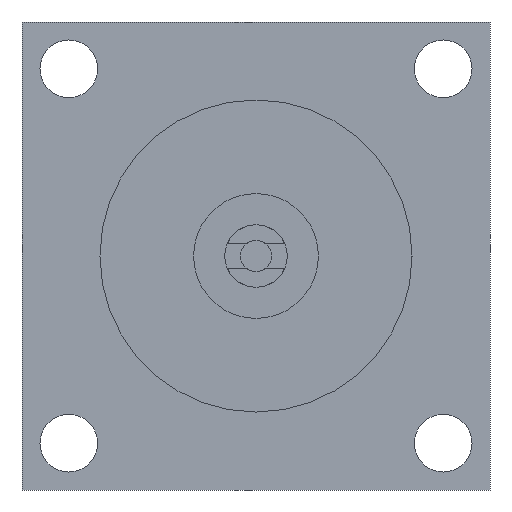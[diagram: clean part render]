
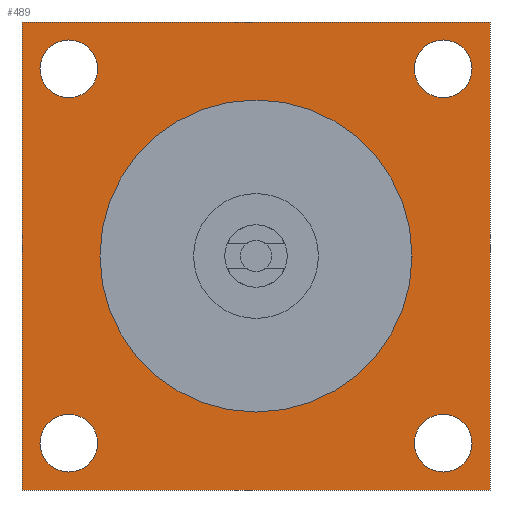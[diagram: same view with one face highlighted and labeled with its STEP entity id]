
A CAD part, left-side view. The second image highlights one B-rep face of the part: STEP entity #489.
In plain terms, the highlighted planar face has unit normal (-1, 0, 0).
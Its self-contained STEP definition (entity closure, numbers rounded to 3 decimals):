
#7 = EDGE_CURVE ( 'NONE', #256, #710, #517, .T. ) ;
#8 = CARTESIAN_POINT ( 'NONE',  ( -20., 0., 50. ) ) ;
#22 = AXIS2_PLACEMENT_3D ( 'NONE', #1468, #1487, #1497 ) ;
#39 = EDGE_CURVE ( 'NONE', #1428, #256, #473, .T. ) ;
#53 = CARTESIAN_POINT ( 'NONE',  ( -20., 60., 50.75 ) ) ;
#55 = CIRCLE ( 'NONE', #1451, 9.25 ) ;
#65 = EDGE_CURVE ( 'NONE', #1117, #1428, #797, .T. ) ;
#87 = AXIS2_PLACEMENT_3D ( 'NONE', #952, #1526, #1667 ) ;
#92 = VECTOR ( 'NONE', #1004, 1000. ) ;
#106 = CARTESIAN_POINT ( 'NONE',  ( -20., 60., -69.25 ) ) ;
#121 = PLANE ( 'NONE',  #395 ) ;
#125 = EDGE_LOOP ( 'NONE', ( #831, #1608 ) ) ;
#134 = AXIS2_PLACEMENT_3D ( 'NONE', #486, #455, #1313 ) ;
#138 = VECTOR ( 'NONE', #1179, 1000. ) ;
#144 = VERTEX_POINT ( 'NONE', #1701 ) ;
#171 = EDGE_CURVE ( 'NONE', #459, #144, #1817, .T. ) ;
#174 = CARTESIAN_POINT ( 'NONE',  ( -20., 60., -50.75 ) ) ;
#189 = CARTESIAN_POINT ( 'NONE',  ( -20., -60., 60. ) ) ;
#191 = ORIENTED_EDGE ( 'NONE', *, *, #7, .T. ) ;
#194 = DIRECTION ( 'NONE',  ( -1., 0., 0. ) ) ;
#200 = DIRECTION ( 'NONE',  ( 0., 0., 1. ) ) ;
#225 = FACE_BOUND ( 'NONE', #1516, .T. ) ;
#237 = ORIENTED_EDGE ( 'NONE', *, *, #65, .T. ) ;
#256 = VERTEX_POINT ( 'NONE', #408 ) ;
#265 = EDGE_CURVE ( 'NONE', #552, #1010, #923, .T. ) ;
#271 = CIRCLE ( 'NONE', #1235, 9.25 ) ;
#287 = CARTESIAN_POINT ( 'NONE',  ( -20., -60., 69.25 ) ) ;
#335 = VERTEX_POINT ( 'NONE', #106 ) ;
#358 = VERTEX_POINT ( 'NONE', #287 ) ;
#392 = VERTEX_POINT ( 'NONE', #1210 ) ;
#395 = AXIS2_PLACEMENT_3D ( 'NONE', #524, #1547, #1572 ) ;
#408 = CARTESIAN_POINT ( 'NONE',  ( -20., -75., 75. ) ) ;
#420 = CARTESIAN_POINT ( 'NONE',  ( -20., 0., -50. ) ) ;
#422 = DIRECTION ( 'NONE',  ( 0., 0., 1. ) ) ;
#424 = CARTESIAN_POINT ( 'NONE',  ( -20., 60., 60. ) ) ;
#429 = DIRECTION ( 'NONE',  ( -1., 0., 0. ) ) ;
#440 = DIRECTION ( 'NONE',  ( -1., 0., 0. ) ) ;
#442 = EDGE_CURVE ( 'NONE', #872, #392, #700, .T. ) ;
#455 = DIRECTION ( 'NONE',  ( -1., 0., 0. ) ) ;
#459 = VERTEX_POINT ( 'NONE', #53 ) ;
#462 = DIRECTION ( 'NONE',  ( 0., 0., 1. ) ) ;
#473 = LINE ( 'NONE', #993, #92 ) ;
#486 = CARTESIAN_POINT ( 'NONE',  ( -20., -60., 60. ) ) ;
#489 = ADVANCED_FACE ( 'NONE', ( #225, #985, #1716, #1321, #944, #566 ), #121, .F. ) ;
#517 = LINE ( 'NONE', #1279, #138 ) ;
#524 = CARTESIAN_POINT ( 'NONE',  ( -20., 0., 0. ) ) ;
#545 = CARTESIAN_POINT ( 'NONE',  ( -20., -60., -69.25 ) ) ;
#552 = VERTEX_POINT ( 'NONE', #420 ) ;
#565 = VERTEX_POINT ( 'NONE', #174 ) ;
#566 = FACE_OUTER_BOUND ( 'NONE', #1213, .T. ) ;
#569 = CARTESIAN_POINT ( 'NONE',  ( -20., 75., -75. ) ) ;
#612 = EDGE_CURVE ( 'NONE', #144, #459, #55, .T. ) ;
#614 = ORIENTED_EDGE ( 'NONE', *, *, #39, .T. ) ;
#700 = CIRCLE ( 'NONE', #22, 9.25 ) ;
#710 = VERTEX_POINT ( 'NONE', #894 ) ;
#711 = AXIS2_PLACEMENT_3D ( 'NONE', #1455, #1016, #1475 ) ;
#781 = ORIENTED_EDGE ( 'NONE', *, *, #851, .F. ) ;
#797 = LINE ( 'NONE', #1434, #1573 ) ;
#821 = ORIENTED_EDGE ( 'NONE', *, *, #1281, .F. ) ;
#831 = ORIENTED_EDGE ( 'NONE', *, *, #1382, .F. ) ;
#851 = EDGE_CURVE ( 'NONE', #1308, #358, #1593, .T. ) ;
#872 = VERTEX_POINT ( 'NONE', #545 ) ;
#877 = ORIENTED_EDGE ( 'NONE', *, *, #612, .F. ) ;
#894 = CARTESIAN_POINT ( 'NONE',  ( -20., 75., 75. ) ) ;
#923 = CIRCLE ( 'NONE', #87, 50. ) ;
#931 = AXIS2_PLACEMENT_3D ( 'NONE', #1675, #1684, #1689 ) ;
#939 = EDGE_CURVE ( 'NONE', #335, #565, #1452, .T. ) ;
#944 = FACE_BOUND ( 'NONE', #125, .T. ) ;
#945 = ORIENTED_EDGE ( 'NONE', *, *, #1806, .F. ) ;
#952 = CARTESIAN_POINT ( 'NONE',  ( -20., 0., 0. ) ) ;
#978 = CIRCLE ( 'NONE', #1384, 9.25 ) ;
#980 = AXIS2_PLACEMENT_3D ( 'NONE', #1683, #440, #422 ) ;
#985 = FACE_BOUND ( 'NONE', #1017, .T. ) ;
#993 = CARTESIAN_POINT ( 'NONE',  ( -20., -75., 75. ) ) ;
#1004 = DIRECTION ( 'NONE',  ( 0., 0., 1. ) ) ;
#1010 = VERTEX_POINT ( 'NONE', #8 ) ;
#1016 = DIRECTION ( 'NONE',  ( -1., 0., 0. ) ) ;
#1017 = EDGE_LOOP ( 'NONE', ( #1368, #781 ) ) ;
#1035 = EDGE_CURVE ( 'NONE', #358, #1308, #978, .T. ) ;
#1113 = CARTESIAN_POINT ( 'NONE',  ( -20., -60., 50.75 ) ) ;
#1117 = VERTEX_POINT ( 'NONE', #569 ) ;
#1121 = CARTESIAN_POINT ( 'NONE',  ( -20., 0., 0. ) ) ;
#1128 = DIRECTION ( 'NONE',  ( -1., 0., 0. ) ) ;
#1133 = DIRECTION ( 'NONE',  ( 0., 0., -1. ) ) ;
#1169 = DIRECTION ( 'NONE',  ( 0., 0., -1. ) ) ;
#1179 = DIRECTION ( 'NONE',  ( 0., 1., 0. ) ) ;
#1210 = CARTESIAN_POINT ( 'NONE',  ( -20., -60., -50.75 ) ) ;
#1213 = EDGE_LOOP ( 'NONE', ( #237, #614, #191, #1327 ) ) ;
#1235 = AXIS2_PLACEMENT_3D ( 'NONE', #1591, #1595, #1605 ) ;
#1259 = ORIENTED_EDGE ( 'NONE', *, *, #171, .F. ) ;
#1279 = CARTESIAN_POINT ( 'NONE',  ( -20., 75., 75. ) ) ;
#1281 = EDGE_CURVE ( 'NONE', #1010, #552, #1349, .T. ) ;
#1308 = VERTEX_POINT ( 'NONE', #1113 ) ;
#1313 = DIRECTION ( 'NONE',  ( 0., 0., 1. ) ) ;
#1321 = FACE_BOUND ( 'NONE', #1398, .T. ) ;
#1324 = VECTOR ( 'NONE', #1169, 1000. ) ;
#1327 = ORIENTED_EDGE ( 'NONE', *, *, #1453, .T. ) ;
#1335 = DIRECTION ( 'NONE',  ( 0., -1., 0. ) ) ;
#1347 = AXIS2_PLACEMENT_3D ( 'NONE', #1121, #1128, #1133 ) ;
#1349 = CIRCLE ( 'NONE', #1347, 50. ) ;
#1368 = ORIENTED_EDGE ( 'NONE', *, *, #1035, .F. ) ;
#1382 = EDGE_CURVE ( 'NONE', #565, #335, #1802, .T. ) ;
#1384 = AXIS2_PLACEMENT_3D ( 'NONE', #189, #194, #200 ) ;
#1398 = EDGE_LOOP ( 'NONE', ( #877, #1259 ) ) ;
#1428 = VERTEX_POINT ( 'NONE', #1702 ) ;
#1434 = CARTESIAN_POINT ( 'NONE',  ( -20., 75., -75. ) ) ;
#1447 = EDGE_LOOP ( 'NONE', ( #945, #1718 ) ) ;
#1451 = AXIS2_PLACEMENT_3D ( 'NONE', #424, #429, #462 ) ;
#1452 = CIRCLE ( 'NONE', #711, 9.25 ) ;
#1453 = EDGE_CURVE ( 'NONE', #710, #1117, #1720, .T. ) ;
#1455 = CARTESIAN_POINT ( 'NONE',  ( -20., 60., -60. ) ) ;
#1468 = CARTESIAN_POINT ( 'NONE',  ( -20., -60., -60. ) ) ;
#1475 = DIRECTION ( 'NONE',  ( 0., 0., 1. ) ) ;
#1487 = DIRECTION ( 'NONE',  ( -1., 0., 0. ) ) ;
#1497 = DIRECTION ( 'NONE',  ( 0., 0., 1. ) ) ;
#1516 = EDGE_LOOP ( 'NONE', ( #1555, #821 ) ) ;
#1526 = DIRECTION ( 'NONE',  ( -1., 0., 0. ) ) ;
#1547 = DIRECTION ( 'NONE',  ( 1., 0., 0. ) ) ;
#1555 = ORIENTED_EDGE ( 'NONE', *, *, #265, .F. ) ;
#1572 = DIRECTION ( 'NONE',  ( 0., 0., -1. ) ) ;
#1573 = VECTOR ( 'NONE', #1335, 1000. ) ;
#1591 = CARTESIAN_POINT ( 'NONE',  ( -20., -60., -60. ) ) ;
#1593 = CIRCLE ( 'NONE', #134, 9.25 ) ;
#1595 = DIRECTION ( 'NONE',  ( -1., 0., 0. ) ) ;
#1605 = DIRECTION ( 'NONE',  ( 0., 0., 1. ) ) ;
#1608 = ORIENTED_EDGE ( 'NONE', *, *, #939, .F. ) ;
#1667 = DIRECTION ( 'NONE',  ( 0., 0., -1. ) ) ;
#1675 = CARTESIAN_POINT ( 'NONE',  ( -20., 60., -60. ) ) ;
#1683 = CARTESIAN_POINT ( 'NONE',  ( -20., 60., 60. ) ) ;
#1684 = DIRECTION ( 'NONE',  ( -1., 0., 0. ) ) ;
#1689 = DIRECTION ( 'NONE',  ( 0., 0., 1. ) ) ;
#1701 = CARTESIAN_POINT ( 'NONE',  ( -20., 60., 69.25 ) ) ;
#1702 = CARTESIAN_POINT ( 'NONE',  ( -20., -75., -75. ) ) ;
#1716 = FACE_BOUND ( 'NONE', #1447, .T. ) ;
#1718 = ORIENTED_EDGE ( 'NONE', *, *, #442, .F. ) ;
#1720 = LINE ( 'NONE', #1731, #1324 ) ;
#1731 = CARTESIAN_POINT ( 'NONE',  ( -20., 75., 75. ) ) ;
#1802 = CIRCLE ( 'NONE', #931, 9.25 ) ;
#1806 = EDGE_CURVE ( 'NONE', #392, #872, #271, .T. ) ;
#1817 = CIRCLE ( 'NONE', #980, 9.25 ) ;
